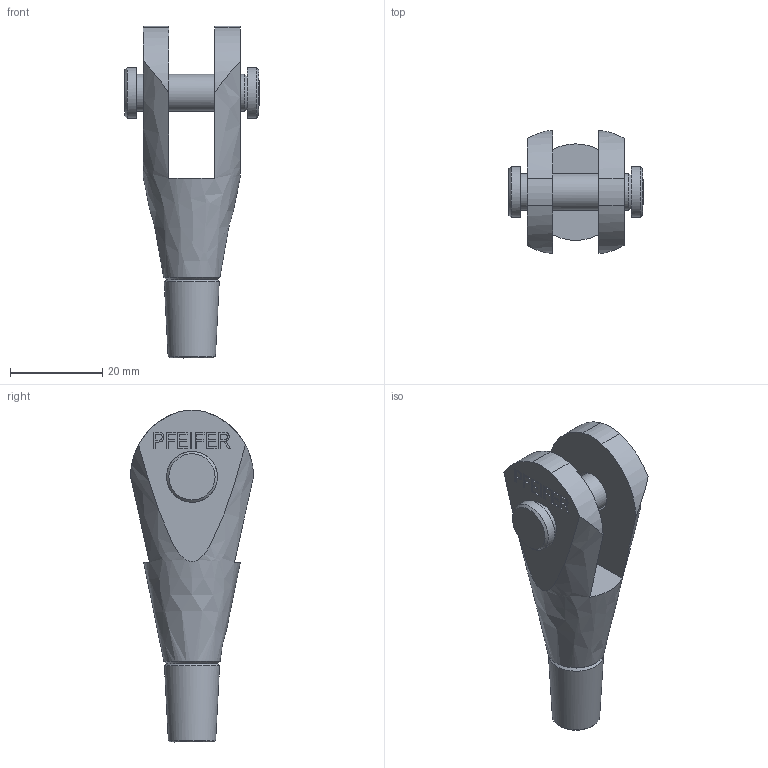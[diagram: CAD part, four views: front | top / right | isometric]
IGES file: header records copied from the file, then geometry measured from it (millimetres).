
Global section: file name: 520-008-GAK; native system: Autodesk Inventor 2016; preprocessor: unknown; author: Administrator; date: 20200625.074303; units: centimetre
Bounding box: 29.11 x 26.67 x 72 mm (x, y, z)
Volume: 13663.5 mm3; surface area: 7182.4 mm2
Topology: 2 solids, 3 shells, 186 faces, 491 edges, 328 vertices
Faces by surface type: bspline 186
